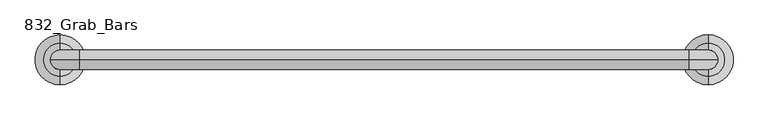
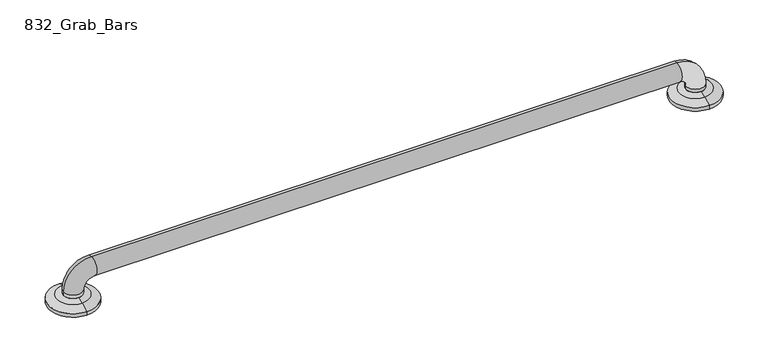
"""IFC4 building model written with IfcOpenShell, lengths in millimetres: proxy geometry, 832_Grab_Bars : 8320-001420."""

from ifc_helpers import new_model, si_unit, point, frame, origin, place, context, project, spatial, polyline, circle_curve, ellipse_curve, trimmed, source, transform, mapped, element, save
from ifc_brep_helpers import plane_surface, cylinder_surface, revolved_surface, advanced_brep


def proxy_832_grab_bars_8b3c1caf(model_context):
    return source(origin(), model_context, "Body", "AdvancedBrep", [
        advanced_brep(
        [(-439.7375, 564.1630987, 13.1934507), (-439.7375, 577.85, 6.35), (-439.7375, 495.3, 6.35), (-439.7375, 508.9869013, 13.1934507), (-439.7375, 520.3461266, 15.875), (-439.7375, 552.8038734, 15.875), (-439.7375, 520.7, 15.875), (-455.6125, 536.575, 15.875), (-439.7375, 552.45, 15.875), (-423.8625, 536.575, 15.875), (-439.7375, 577.85, 0.0), (-439.7375, 552.45, 0.0), (-439.7375, 536.575, 0.0), (-439.7375, 520.7, 0.0), (-439.7375, 495.3, 0.0), (627.0625, 564.2276895, 13.1934507), (627.0625, 577.9145908, 6.35), (627.0625, 495.3645908, 6.35), (627.0625, 509.0514921, 13.1934507), (627.0625, 520.4107174, 15.875), (627.0625, 552.8684641, 15.875), (627.0625, 520.7, 15.875), (611.1875, 536.575, 15.875), (627.0625, 552.45, 15.875), (642.9375, 536.575, 15.875), (627.0625, 577.9145908, 0.0), (627.0625, 552.45, 0.0), (627.0625, 536.6395908, 0.0), (627.0625, 520.7, 0.0), (627.0625, 495.3645908, 0.0), (-455.6125, 536.575, 22.225), (-423.8625, 536.575, 22.225), (-407.9875, 536.575, 38.1), (-407.9875, 536.575, 69.85), (595.3125, 536.575, 38.1), (595.3125, 536.575, 69.85), (611.1875, 536.575, 22.225), (642.9375, 536.575, 22.225)],
        [
            (0, 1),
            (1, 2, circle_curve(frame((-439.7375, 536.575, 6.35), z_axis=(0.0, 0.0, 1.0), x_axis=(0.0, -1.0, 0.0)), 41.275)),
            (2, 3),
            (3, 0, circle_curve(frame((-439.7375, 536.575, 13.1934507), z_axis=(0.0, 0.0, -1.0), x_axis=(0.0, -1.0, 0.0)), 27.5880987)),
            (2, 1, circle_curve(frame((-439.7375, 536.575, 6.35), z_axis=(0.0, 0.0, 1.0), x_axis=(0.0, -1.0, 0.0)), 41.275)),
            (0, 3, circle_curve(frame((-439.7375, 536.575, 13.1934507), z_axis=(0.0, 0.0, -1.0), x_axis=(0.0, -1.0, 0.0)), 27.5880987)),
            (3, 4, circle_curve(frame((-439.7375, 520.3461266, -9.525), z_axis=(-1.0, 0.0, 0.0), x_axis=(0.0, 0.0, -1.0)), 25.4)),
            (4, 5, circle_curve(frame((-439.7375, 536.575, 15.875), z_axis=(0.0, 0.0, -1.0), x_axis=(0.0, -1.0, 0.0)), 16.2288734)),
            (5, 0, circle_curve(frame((-439.7375, 552.8038734, -9.525), z_axis=(-1.0, 0.0, 0.0), x_axis=(0.0, 0.0, -1.0)), 25.4)),
            (5, 4, circle_curve(frame((-439.7375, 536.575, 15.875), z_axis=(0.0, 0.0, -1.0), x_axis=(0.0, -1.0, 0.0)), 16.2288734)),
            (4, 6),
            (6, 7, circle_curve(frame((-439.7375, 536.575, 15.875), z_axis=(0.0, 0.0, -1.0), x_axis=(1.0, 0.0, 0.0)), 15.875)),
            (7, 8, circle_curve(frame((-439.7375, 536.575, 15.875), z_axis=(0.0, 0.0, -1.0), x_axis=(1.0, 0.0, 0.0)), 15.875)),
            (8, 5),
            (8, 9, circle_curve(frame((-439.7375, 536.575, 15.875), z_axis=(0.0, 0.0, -1.0), x_axis=(1.0, 0.0, 0.0)), 15.875)),
            (9, 6, circle_curve(frame((-439.7375, 536.575, 15.875), z_axis=(0.0, 0.0, -1.0), x_axis=(1.0, 0.0, 0.0)), 15.875)),
            (10, 11),
            (11, 12),
            (12, 13),
            (13, 14),
            (14, 10, circle_curve(frame((-439.7375, 536.575, 0.0), z_axis=(0.0, 0.0, -1.0), x_axis=(0.0, -1.0, 0.0)), 41.275)),
            (10, 14, circle_curve(frame((-439.7375, 536.575, 0.0), z_axis=(0.0, 0.0, -1.0), x_axis=(0.0, -1.0, 0.0)), 41.275)),
            (1, 10),
            (14, 2),
            (15, 16),
            (16, 17, circle_curve(frame((627.0625, 536.6395908, 6.35), z_axis=(0.0, 0.0, 1.0), x_axis=(0.0, -1.0, 0.0)), 41.275)),
            (17, 18),
            (18, 15, circle_curve(frame((627.0625, 536.6395908, 13.1934507), z_axis=(0.0, 0.0, -1.0), x_axis=(0.0, -1.0, 0.0)), 27.5880987)),
            (17, 16, circle_curve(frame((627.0625, 536.6395908, 6.35), z_axis=(0.0, 0.0, 1.0), x_axis=(0.0, -1.0, 0.0)), 41.275)),
            (15, 18, circle_curve(frame((627.0625, 536.6395908, 13.1934507), z_axis=(0.0, 0.0, -1.0), x_axis=(0.0, -1.0, 0.0)), 27.5880987)),
            (18, 19, circle_curve(frame((627.0625, 520.4107174, -9.525), z_axis=(-1.0, 0.0, 0.0), x_axis=(0.0, 0.0, -1.0)), 25.4)),
            (19, 20, circle_curve(frame((627.0625, 536.6395908, 15.875), z_axis=(0.0, 0.0, -1.0), x_axis=(0.0, -1.0, 0.0)), 16.2288734)),
            (20, 15, circle_curve(frame((627.0625, 552.8684641, -9.525), z_axis=(-1.0, 0.0, 0.0), x_axis=(0.0, 0.0, -1.0)), 25.4)),
            (20, 19, circle_curve(frame((627.0625, 536.6395908, 15.875), z_axis=(0.0, 0.0, -1.0), x_axis=(0.0, -1.0, 0.0)), 16.2288734)),
            (19, 21),
            (21, 22, circle_curve(frame((627.0625, 536.575, 15.875), z_axis=(0.0, 0.0, -1.0), x_axis=(-1.0, 0.0, 0.0)), 15.875)),
            (22, 23, circle_curve(frame((627.0625, 536.575, 15.875), z_axis=(0.0, 0.0, -1.0), x_axis=(-1.0, 0.0, 0.0)), 15.875)),
            (23, 20),
            (23, 24, circle_curve(frame((627.0625, 536.575, 15.875), z_axis=(0.0, 0.0, -1.0), x_axis=(-1.0, 0.0, 0.0)), 15.875)),
            (24, 21, circle_curve(frame((627.0625, 536.575, 15.875), z_axis=(0.0, 0.0, -1.0), x_axis=(-1.0, 0.0, 0.0)), 15.875)),
            (25, 26),
            (26, 27),
            (27, 28),
            (28, 29),
            (29, 25, circle_curve(frame((627.0625, 536.6395908, 0.0), z_axis=(0.0, 0.0, -1.0), x_axis=(0.0, -1.0, 0.0)), 41.275)),
            (25, 29, circle_curve(frame((627.0625, 536.6395908, 0.0), z_axis=(0.0, 0.0, -1.0), x_axis=(0.0, -1.0, 0.0)), 41.275)),
            (16, 25),
            (29, 17),
            (30, 7),
            (9, 31),
            (31, 30, circle_curve(frame((-439.7375, 536.575, 22.225), z_axis=(0.0, 0.0, -1.0), x_axis=(1.0, 0.0, 0.0)), 15.875)),
            (30, 31, circle_curve(frame((-439.7375, 536.575, 22.225), z_axis=(0.0, 0.0, -1.0), x_axis=(1.0, 0.0, 0.0)), 15.875)),
            (31, 32, circle_curve(frame((-407.9875, 536.575, 22.225), z_axis=(0.0, 1.0, 0.0), x_axis=(-1.0, 0.0, 0.0)), 15.875)),
            (32, 33, circle_curve(frame((-407.9875, 536.575, 53.975), z_axis=(-1.0, 0.0, 0.0), x_axis=(0.0, 0.0, -1.0)), 15.875)),
            (33, 30, circle_curve(frame((-407.9875, 536.575, 22.225), z_axis=(0.0, -1.0, 0.0), x_axis=(-1.0, 0.0, 0.0)), 47.625)),
            (33, 32, circle_curve(frame((-407.9875, 536.575, 53.975), z_axis=(-1.0, 0.0, 0.0), x_axis=(0.0, 0.0, -1.0)), 15.875)),
            (32, 34),
            (34, 35, circle_curve(frame((595.3125, 536.575, 53.975), z_axis=(-1.0, 0.0, 0.0), x_axis=(0.0, 0.0, -1.0)), 15.875)),
            (35, 33),
            (35, 34, circle_curve(frame((595.3125, 536.575, 53.975), z_axis=(-1.0, 0.0, 0.0), x_axis=(0.0, 0.0, -1.0)), 15.875)),
            (34, 36, circle_curve(frame((595.3125, 536.575, 22.225), z_axis=(0.0, 1.0, 0.0), x_axis=(0.0, 0.0, 1.0)), 15.875)),
            (36, 37, circle_curve(frame((627.0625, 536.575, 22.225), z_axis=(0.0, 0.0, 1.0), x_axis=(-1.0, 0.0, 0.0)), 15.875)),
            (37, 35, circle_curve(frame((595.3125, 536.575, 22.225), z_axis=(0.0, -1.0, 0.0), x_axis=(0.0, 0.0, 1.0)), 47.625)),
            (37, 36, circle_curve(frame((627.0625, 536.575, 22.225), z_axis=(0.0, 0.0, 1.0), x_axis=(-1.0, 0.0, 0.0)), 15.875)),
            (36, 22),
            (24, 37),
        ],
        [
            revolved_surface(polyline([(-439.7375, 495.3, 6.35), (-439.7375, 508.9869013, 13.1934507)]), (-439.7375, 536.575, 31.75), (0.0, 0.0, 1.0)),
            revolved_surface(trimmed(ellipse_curve(frame((-439.7375, 520.3461266, -9.525), z_axis=(-1.0, 0.0, 0.0), x_axis=(0.0, 0.0, -1.0)), 25.4, 25.4), [point((-439.7375, 508.9869013, 13.1934507))], [point((-439.7375, 520.3461266, 15.875))], True, "CARTESIAN"), (-439.7375, 536.575, 31.75), (0.0, 0.0, 1.0)),
            plane_surface(frame((-439.7375, 536.575, 15.875), z_axis=(0.0, 0.0, 1.0), x_axis=(0.0, -1.0, 0.0))),
            plane_surface(frame((-439.7375, 536.575, 0.0), z_axis=(0.0, 0.0, -1.0), x_axis=(0.0, -1.0, 0.0))),
            cylinder_surface(frame((-439.7375, 536.575, 31.75), z_axis=(0.0, 0.0, 1.0), x_axis=(0.0, -1.0, 0.0)), 41.275),
            revolved_surface(polyline([(627.0625, 495.3645908, 6.35), (627.0625, 509.0514921, 13.1934507)]), (627.0625, 536.6395908, 31.75), (0.0, 0.0, 1.0)),
            revolved_surface(trimmed(ellipse_curve(frame((627.0625, 520.4107174, -9.525), z_axis=(-1.0, 0.0, 0.0), x_axis=(0.0, 0.0, -1.0)), 25.4, 25.4), [point((627.0625, 509.0514921, 13.1934507))], [point((627.0625, 520.4107174, 15.875))], True, "CARTESIAN"), (627.0625, 536.6395908, 31.75), (0.0, 0.0, 1.0)),
            plane_surface(frame((627.0625, 536.6395908, 15.875), z_axis=(0.0, 0.0, 1.0), x_axis=(0.0, -1.0, 0.0))),
            plane_surface(frame((627.0625, 536.6395908, 0.0), z_axis=(0.0, 0.0, -1.0), x_axis=(0.0, -1.0, 0.0))),
            cylinder_surface(frame((627.0625, 536.6395908, 31.75), z_axis=(0.0, 0.0, 1.0), x_axis=(0.0, -1.0, 0.0)), 41.275),
            cylinder_surface(frame((-439.7375, 536.575, 0.0), z_axis=(0.0, 0.0, -1.0), x_axis=(1.0, 0.0, 0.0)), 15.875),
            revolved_surface(trimmed(ellipse_curve(frame((-439.7375, 536.575, 22.225), z_axis=(0.0, 0.0, 1.0), x_axis=(1.0, 0.0, 0.0)), 15.875, 15.875), [point((-455.6125, 536.575, 22.225))], [point((-423.8625, 536.575, 22.225))], True, "CARTESIAN"), (-407.9875, 536.575, 22.225), (0.0, -1.0, 0.0)),
            revolved_surface(trimmed(ellipse_curve(frame((-439.7375, 536.575, 22.225), z_axis=(0.0, 0.0, 1.0), x_axis=(1.0, 0.0, 0.0)), 15.875, 15.875), [point((-423.8625, 536.575, 22.225))], [point((-455.6125, 536.575, 22.225))], True, "CARTESIAN"), (-407.9875, 536.575, 22.225), (0.0, -1.0, 0.0)),
            cylinder_surface(frame((-407.9875, 536.575, 53.975), z_axis=(-1.0, 0.0, 0.0), x_axis=(0.0, 0.0, -1.0)), 15.875),
            revolved_surface(trimmed(ellipse_curve(frame((595.3125, 536.575, 53.975), z_axis=(1.0, 0.0, 0.0), x_axis=(0.0, 0.0, -1.0)), 15.875, 15.875), [point((595.3125, 536.575, 69.85))], [point((595.3125, 536.575, 38.1))], True, "CARTESIAN"), (595.3125, 536.575, 22.225), (0.0, -1.0, 0.0)),
            revolved_surface(trimmed(ellipse_curve(frame((595.3125, 536.575, 53.975), z_axis=(1.0, 0.0, 0.0), x_axis=(0.0, 0.0, -1.0)), 15.875, 15.875), [point((595.3125, 536.575, 38.1))], [point((595.3125, 536.575, 69.85))], True, "CARTESIAN"), (595.3125, 536.575, 22.225), (0.0, -1.0, 0.0)),
            cylinder_surface(frame((627.0625, 536.575, 22.225), z_axis=(0.0, 0.0, 1.0), x_axis=(-1.0, 0.0, 0.0)), 15.875),
        ],
        [
            (0, [[1, 2, 3, 4]]),
            (0, [[5, -1, 6, -3]]),
            (1, [[7, 8, 9, -4]]),
            (1, [[-9, 10, -7, -6]]),
            (2, [[11, 12, 13, 14, -8]]),
            (2, [[-14, 15, 16, -11, -10]]),
            (3, [[17, 18, 19, 20, 21]]),
            (3, [[-20, -19, -18, -17, 22]]),
            (4, [[23, -21, 24, -2]]),
            (4, [[-24, -22, -23, -5]]),
            (5, [[25, 26, 27, 28]]),
            (5, [[29, -25, 30, -27]]),
            (6, [[31, 32, 33, -28]]),
            (6, [[-33, 34, -31, -30]]),
            (7, [[35, 36, 37, 38, -32]]),
            (7, [[-38, 39, 40, -35, -34]]),
            (8, [[41, 42, 43, 44, 45]]),
            (8, [[-44, -43, -42, -41, 46]]),
            (9, [[47, -45, 48, -26]]),
            (9, [[-48, -46, -47, -29]]),
            (10, [[49, -12, -16, 50, 51]]),
            (10, [[-50, -15, -13, -49, 52]]),
            (11, [[53, 54, 55, -51]]),
            (12, [[-55, 56, -53, -52]]),
            (13, [[57, 58, 59, -54]]),
            (13, [[-59, 60, -57, -56]]),
            (14, [[61, 62, 63, -58]]),
            (15, [[-63, 64, -61, -60]]),
            (16, [[65, -36, -40, 66, -62]]),
            (16, [[-66, -39, -37, -65, -64]]),
        ],
    ),
    ])


if __name__ == "__main__":
    model = new_model("IFC4")
    model_context = context("Model", 3, world=origin())
    ifc_project = project(units=[si_unit("LENGTHUNIT", "METRE", prefix="MILLI")], contexts=[model_context])
    site = spatial("IfcSite", under=ifc_project)
    building = spatial("IfcBuilding", under=site)
    placement = place(None, origin())
    proxy_832_grab_bars_shape = proxy_832_grab_bars_8b3c1caf(model_context)
    element("IfcBuildingElementProxy", 1, Name="832_Grab_Bars : 8320-001420", ObjectType="832_Grab_Bars : 8320-001420", at=placement, inside=building, context=model_context, shape_type="MappedRepresentation", body=[
        mapped(proxy_832_grab_bars_shape, transform((0.0, 0.0, 0.0), x_axis=(1.0, 0.0, 0.0), y_axis=(0.0, 1.0, 0.0), z_axis=(0.0, 0.0, 1.0))),
    ])
    save(model, "model.ifc")
